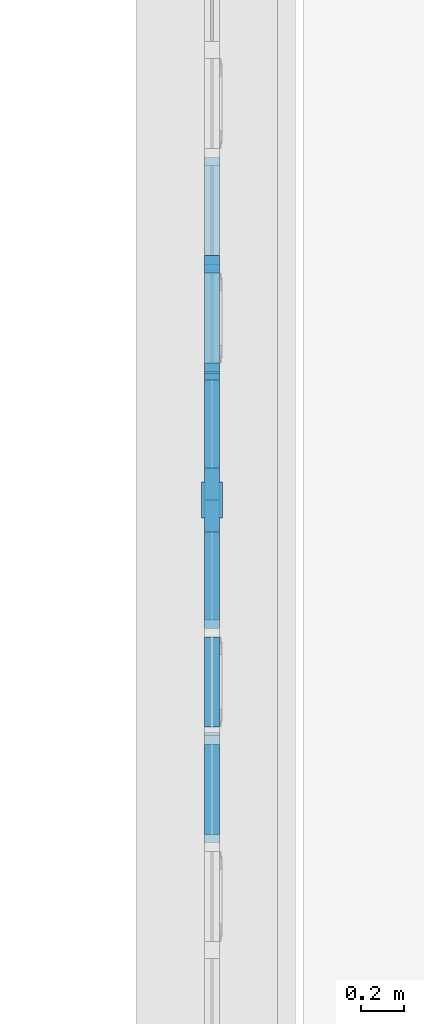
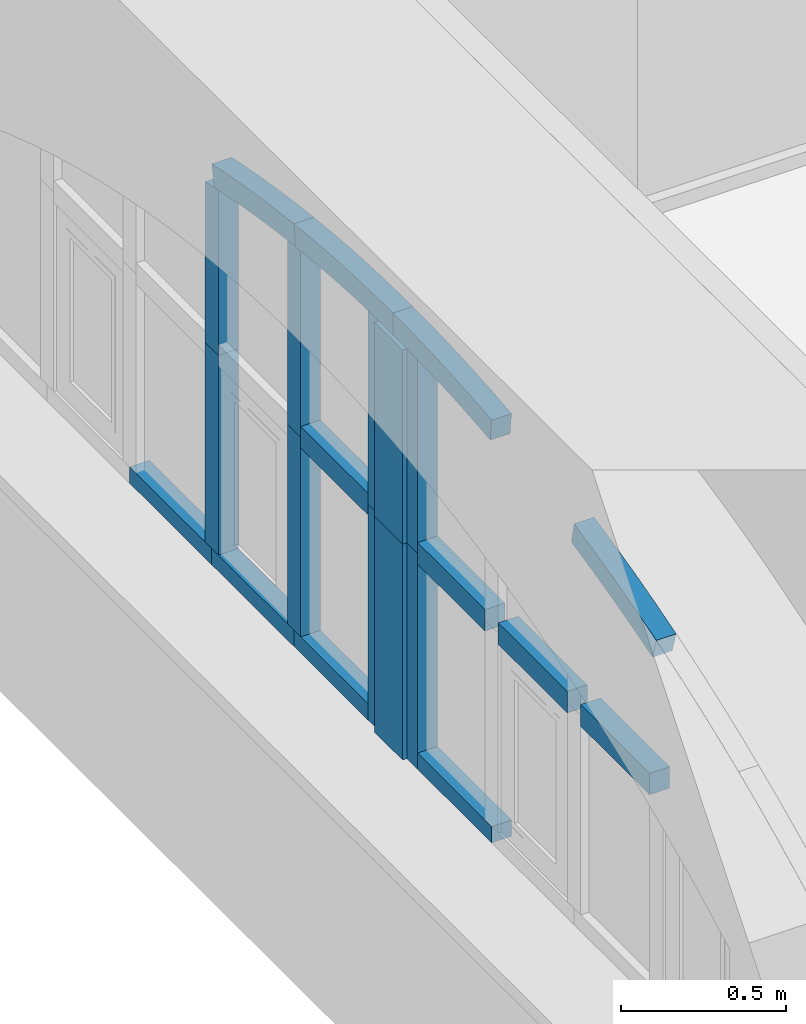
# One storey, part 13 of 32: 18 members, 1 element without a shape of its own.
"""IFC2X3 building model written with IfcOpenShell, lengths in millimetres."""

from ifc_helpers import new_model, entity, si_unit, converted_unit, derived_unit, direction, frame, frame_2d, origin, place, context, subcontext, project, spatial, polyline, circle_curve, parameter, trimmed, segment, composite_curve, rectangle, outline, extrude, faceted_brep, source, transform, mapped, material, type_object, type_shapes, element, aggregate, save


model = new_model("IFC2X3")

# Units and contexts
model_context = context("Model", 3, precision=0.01, world=origin(), true_north=direction((6.123031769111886e-17, 1.0)))
body_context = subcontext(model_context, "Body", "Model", "MODEL_VIEW")
ifc_project = project(units=[si_unit("LENGTHUNIT", "METRE", prefix="MILLI"), si_unit("AREAUNIT", "SQUARE_METRE"), si_unit("VOLUMEUNIT", "CUBIC_METRE"), converted_unit("PLANEANGLEUNIT", "DEGREE", entity("IfcPlaneAngleMeasure", 0.017453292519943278), si_unit("PLANEANGLEUNIT", "RADIAN"), dimensions=[0, 0, 0, 0, 0, 0, 0]), si_unit("MASSUNIT", "GRAM", prefix="KILO"), derived_unit("MASSDENSITYUNIT", [(si_unit("MASSUNIT", "GRAM", prefix="KILO"), 1), (si_unit("LENGTHUNIT", "METRE"), -3)]), derived_unit("IONCONCENTRATIONUNIT", [(si_unit("MASSUNIT", "GRAM", prefix="KILO"), 1), (si_unit("LENGTHUNIT", "METRE"), -3)]), derived_unit("MOMENTOFINERTIAUNIT", [(si_unit("LENGTHUNIT", "METRE"), 4)]), si_unit("TIMEUNIT", "SECOND"), si_unit("FREQUENCYUNIT", "HERTZ"), si_unit("THERMODYNAMICTEMPERATUREUNIT", "DEGREE_CELSIUS"), derived_unit("THERMALTRANSMITTANCEUNIT", [(si_unit("MASSUNIT", "GRAM", prefix="KILO"), 1), (si_unit("THERMODYNAMICTEMPERATUREUNIT", "KELVIN"), -1), (si_unit("TIMEUNIT", "SECOND"), -3)]), derived_unit("THERMALCONDUCTANCEUNIT", [(si_unit("MASSUNIT", "GRAM", prefix="KILO"), 1), (si_unit("THERMODYNAMICTEMPERATUREUNIT", "KELVIN"), -1), (si_unit("TIMEUNIT", "SECOND"), -3), (si_unit("LENGTHUNIT", "METRE"), 1)]), derived_unit("VOLUMETRICFLOWRATEUNIT", [(si_unit("LENGTHUNIT", "METRE", prefix="DECI"), 3), (si_unit("TIMEUNIT", "SECOND"), -1)]), derived_unit("MASSFLOWRATEUNIT", [(si_unit("MASSUNIT", "GRAM", prefix="KILO"), 1), (si_unit("TIMEUNIT", "SECOND"), -1)]), derived_unit("ROTATIONALFREQUENCYUNIT", [(si_unit("TIMEUNIT", "SECOND"), -1)]), si_unit("ELECTRICCURRENTUNIT", "AMPERE"), si_unit("ELECTRICVOLTAGEUNIT", "VOLT"), si_unit("POWERUNIT", "WATT"), si_unit("FORCEUNIT", "NEWTON", prefix="KILO"), si_unit("ILLUMINANCEUNIT", "LUX"), si_unit("LUMINOUSFLUXUNIT", "LUMEN"), si_unit("LUMINOUSINTENSITYUNIT", "CANDELA"), si_unit("ENERGYUNIT", "JOULE"), derived_unit("USERDEFINED", [(si_unit("MASSUNIT", "GRAM", prefix="KILO"), -1), (si_unit("LENGTHUNIT", "METRE"), -2), (si_unit("TIMEUNIT", "SECOND"), 3), (si_unit("LUMINOUSFLUXUNIT", "LUMEN"), 1)]), derived_unit("USERDEFINED", [(si_unit("MASSUNIT", "GRAM", prefix="KILO"), 1), (si_unit("TIMEUNIT", "SECOND"), -3), (si_unit("LENGTHUNIT", "METRE"), 3), (si_unit("ELECTRICCURRENTUNIT", "AMPERE"), -2)]), derived_unit("SOUNDPOWERUNIT", [(si_unit("MASSUNIT", "GRAM", prefix="KILO"), 1), (si_unit("TIMEUNIT", "SECOND"), -3), (si_unit("LENGTHUNIT", "METRE"), 2)]), derived_unit("SOUNDPRESSUREUNIT", [(si_unit("MASSUNIT", "GRAM", prefix="KILO"), 1), (si_unit("LENGTHUNIT", "METRE"), -1), (si_unit("TIMEUNIT", "SECOND"), -2)]), derived_unit("LINEARVELOCITYUNIT", [(si_unit("LENGTHUNIT", "METRE"), 1), (si_unit("TIMEUNIT", "SECOND"), -1)]), si_unit("PRESSUREUNIT", "PASCAL"), derived_unit("USERDEFINED", [(si_unit("MASSUNIT", "GRAM", prefix="KILO"), 1), (si_unit("LENGTHUNIT", "METRE"), -2), (si_unit("TIMEUNIT", "SECOND"), -2)]), derived_unit("LINEARFORCEUNIT", [(si_unit("MASSUNIT", "GRAM", prefix="KILO"), 1), (si_unit("TIMEUNIT", "SECOND"), -2)]), derived_unit("PLANARFORCEUNIT", [(si_unit("MASSUNIT", "GRAM", prefix="KILO"), 1), (si_unit("LENGTHUNIT", "METRE"), -1), (si_unit("TIMEUNIT", "SECOND"), -2)]), derived_unit("SPECIFICHEATCAPACITYUNIT", [(si_unit("THERMODYNAMICTEMPERATUREUNIT", "KELVIN"), -1), (si_unit("LENGTHUNIT", "METRE"), 2), (si_unit("TIMEUNIT", "SECOND"), -2)]), derived_unit("HEATFLUXDENSITYUNIT", [(si_unit("MASSUNIT", "GRAM", prefix="KILO"), 1), (si_unit("TIMEUNIT", "SECOND"), -3)]), derived_unit("HEATINGVALUEUNIT", [(si_unit("LENGTHUNIT", "METRE"), 2), (si_unit("TIMEUNIT", "SECOND"), -2)]), derived_unit("VAPORPERMEABILITYUNIT", [(si_unit("LENGTHUNIT", "METRE"), -1), (si_unit("TIMEUNIT", "SECOND"), 1)]), derived_unit("DYNAMICVISCOSITYUNIT", [(si_unit("MASSUNIT", "GRAM", prefix="KILO"), 1), (si_unit("TIMEUNIT", "SECOND"), -1), (si_unit("LENGTHUNIT", "METRE"), -1)]), derived_unit("THERMALEXPANSIONCOEFFICIENTUNIT", [(si_unit("THERMODYNAMICTEMPERATUREUNIT", "KELVIN"), -1)]), derived_unit("MODULUSOFELASTICITYUNIT", [(si_unit("MASSUNIT", "GRAM", prefix="KILO"), 1), (si_unit("LENGTHUNIT", "METRE"), -1), (si_unit("TIMEUNIT", "SECOND"), -2)]), derived_unit("ISOTHERMALMOISTURECAPACITYUNIT", [(si_unit("MASSUNIT", "GRAM", prefix="KILO"), -1), (si_unit("LENGTHUNIT", "METRE"), 3)]), derived_unit("MOISTUREDIFFUSIVITYUNIT", [(si_unit("TIMEUNIT", "SECOND"), -1), (si_unit("LENGTHUNIT", "METRE"), 2)]), derived_unit("MASSPERLENGTHUNIT", [(si_unit("MASSUNIT", "GRAM", prefix="KILO"), 1), (si_unit("LENGTHUNIT", "METRE"), -1)]), derived_unit("THERMALRESISTANCEUNIT", [(si_unit("MASSUNIT", "GRAM", prefix="KILO"), -1), (si_unit("TIMEUNIT", "SECOND"), 3), (si_unit("THERMODYNAMICTEMPERATUREUNIT", "KELVIN"), 1)]), derived_unit("ACCELERATIONUNIT", [(si_unit("LENGTHUNIT", "METRE"), 1), (si_unit("TIMEUNIT", "SECOND"), -2)]), derived_unit("ANGULARVELOCITYUNIT", [(si_unit("TIMEUNIT", "SECOND"), -1), (si_unit("PLANEANGLEUNIT", "RADIAN"), 1)]), derived_unit("LINEARSTIFFNESSUNIT", [(si_unit("MASSUNIT", "GRAM", prefix="KILO"), 1), (si_unit("TIMEUNIT", "SECOND"), -2)]), derived_unit("WARPINGCONSTANTUNIT", [(si_unit("LENGTHUNIT", "METRE"), 6)]), derived_unit("LINEARMOMENTUNIT", [(si_unit("MASSUNIT", "GRAM", prefix="KILO"), 1), (si_unit("LENGTHUNIT", "METRE"), 1), (si_unit("TIMEUNIT", "SECOND"), -2)]), derived_unit("TORQUEUNIT", [(si_unit("MASSUNIT", "GRAM", prefix="KILO"), 1), (si_unit("LENGTHUNIT", "METRE"), 2), (si_unit("TIMEUNIT", "SECOND"), -2)])], contexts=[model_context])

# Site, building, storey
site_placement = place(None, origin())
site = spatial("IfcSite", under=ifc_project, at=site_placement, Name="Default", CompositionType="ELEMENT")
building_placement = place(site_placement, origin())
building = spatial("IfcBuilding", under=site, at=building_placement, Name="Eesti Rahvusraamatukogu hoone renoveerimise projekteerimistööd", CompositionType="ELEMENT")
storey_placement = place(building_placement, frame((0.0, 0.0, 4950.000000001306)))
storey = spatial("IfcBuildingStorey", under=building, at=storey_placement, Name="2. korrus", CompositionType="ELEMENT", Elevation=4950.000000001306)

# Curtain wall, members
curtain_wall_type = type_object("IfcCurtainWallType", Name="Curtain Wall:Ak-04", PredefinedType="NOTDEFINED")
curtain_wall_placement = place(storey_placement, frame((0.0, 0.0, -4950.000000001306)))
curtain_wall = element("IfcCurtainWall", 1, at=curtain_wall_placement, inside=storey, type_object=curtain_wall_type, Name="Curtain Wall:Ak-04", ObjectType="Curtain Wall:Ak-04")
ifc_material = material(Name="LUMION_dark steel window frames")
member_type_1 = type_object("IfcMemberType", Name="Rectangular Mullion:NEW 80x70mm", PredefinedType="MULLION", material=ifc_material)
shared_shape_1 = source(origin(), body_context, "Body", "SweptSolid", [
    extrude(rectangle(XDim=80.0, YDim=70.0, at=frame_2d((0.0, -3.552713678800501e-15), x_axis=(1.0, 0.0))), frame((0.0, 0.0, -420.0), z_axis=(0.0, 0.0, 1.0), x_axis=(-1.0, 0.0, 0.0)), (0.0, 0.0, 1.0), 419.999999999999),
])
type_shapes(member_type_1, [shared_shape_1])
member_1_placement = place(curtain_wall_placement, frame((-36425.0, 32295.44029191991, 6550.000000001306), z_axis=(0.0, -1.0, 0.0), x_axis=(0.0, 0.0, 1.0)))
member_1 = element("IfcMember", 2, at=member_1_placement, type_object=member_type_1, material=ifc_material, Name="Rectangular Mullion:NEW 80x70mm", ObjectType="Rectangular Mullion:NEW 80x70mm", context=body_context, shape_type="MappedRepresentation", body=[
    mapped(shared_shape_1, transform((0.0, 0.0, 0.0), scale=1.0)),
])
member_2_placement = place(curtain_wall_placement, frame((-36425.0, 31795.44029191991, 6550.000000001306), z_axis=(0.0, -1.0, 0.0), x_axis=(0.0, 0.0, 1.0)))
member_2 = element("IfcMember", 3, at=member_2_placement, type_object=member_type_1, material=ifc_material, Name="Rectangular Mullion:NEW 80x70mm", ObjectType="Rectangular Mullion:NEW 80x70mm", context=body_context, shape_type="MappedRepresentation", body=[
    mapped(shared_shape_1, transform((0.0, 0.0, 0.0), scale=1.0)),
])
member_type_2 = type_object("IfcMemberType", Name="Rectangular Mullion:NEW 80x70mm", PredefinedType="MULLION", material=ifc_material)
shared_shape_2 = source(origin(), body_context, "Body", "SweptSolid", [
    extrude(rectangle(XDim=80.0, YDim=70.0, at=frame_2d((0.0, -3.552713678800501e-15), x_axis=(1.0, 0.0))), frame((0.0, 0.0, -410.0), z_axis=(0.0, 0.0, 1.0), x_axis=(-1.0, 0.0, 0.0)), (0.0, 0.0, 1.0), 409.9999999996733),
])
type_shapes(member_type_2, [shared_shape_2])
member_3_placement = place(curtain_wall_placement, frame((-36425.0, 33505.44029191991, 6550.000000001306), z_axis=(0.0, -1.0, 0.0), x_axis=(0.0, 0.0, 1.0)))
member_3 = element("IfcMember", 4, at=member_3_placement, type_object=member_type_2, material=ifc_material, Name="Rectangular Mullion:NEW 80x70mm", ObjectType="Rectangular Mullion:NEW 80x70mm", context=body_context, shape_type="MappedRepresentation", body=[
    mapped(shared_shape_2, transform((0.0, 0.0, 0.0), scale=1.0)),
])
member_4_placement = place(curtain_wall_placement, frame((-36425.0, 32795.440291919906, 6550.000000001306), z_axis=(0.0, -1.0, 0.0), x_axis=(0.0, 0.0, 1.0)))
member_4 = element("IfcMember", 5, at=member_4_placement, type_object=member_type_2, material=ifc_material, Name="Rectangular Mullion:NEW 80x70mm", ObjectType="Rectangular Mullion:NEW 80x70mm", context=body_context, shape_type="MappedRepresentation", body=[
    mapped(shared_shape_2, transform((0.0, 0.0, 0.0), scale=1.0)),
])
member_type_3 = type_object("IfcMemberType", Name="Rectangular Mullion:NEW 60x70mm", PredefinedType="MULLION", material=ifc_material)
shared_shape_3 = source(origin(), body_context, "Body", "SweptSolid", [
    extrude(rectangle(XDim=60.0, YDim=70.0, at=frame_2d((0.0, 3.552713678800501e-15), x_axis=(1.0, 0.0))), frame((-30.0, 0.0, -500.0), z_axis=(0.0, 0.0, 1.0), x_axis=(-1.0, 0.0, 0.0)), (0.0, 0.0, 1.0), 499.999999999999),
])
type_shapes(member_type_3, [shared_shape_3])
member_5_placement = place(curtain_wall_placement, frame((-36425.0, 34455.44029191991, 5750.000000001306), z_axis=(0.0, 1.0, 0.0), x_axis=(0.0, 0.0, -1.0)))
member_5 = element("IfcMember", 6, at=member_5_placement, type_object=member_type_3, material=ifc_material, Name="Rectangular Mullion:NEW 60x70mm", ObjectType="Rectangular Mullion:NEW 60x70mm", context=body_context, shape_type="MappedRepresentation", body=[
    mapped(shared_shape_3, transform((0.0, 0.0, 0.0), scale=1.0)),
])
member_6_placement = place(curtain_wall_placement, frame((-36425.0, 34955.44029191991, 5750.000000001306), z_axis=(0.0, 1.0, 0.0), x_axis=(0.0, 0.0, -1.0)))
member_6 = element("IfcMember", 7, at=member_6_placement, type_object=member_type_3, material=ifc_material, Name="Rectangular Mullion:NEW 60x70mm", ObjectType="Rectangular Mullion:NEW 60x70mm", context=body_context, shape_type="MappedRepresentation", body=[
    mapped(shared_shape_3, transform((0.0, 0.0, 0.0), scale=1.0)),
])
member_type_4 = type_object("IfcMemberType", Name="Rectangular Mullion:NEW 60x70mm", PredefinedType="MULLION", material=ifc_material)
shared_shape_4 = source(origin(), body_context, "Body", "SweptSolid", [
    extrude(rectangle(XDim=60.0, YDim=70.0, at=frame_2d((0.0, 3.552713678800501e-15), x_axis=(1.0, 0.0))), frame((-30.0, 0.0, -450.0), z_axis=(0.0, 0.0, 1.0), x_axis=(-1.0, 0.0, 0.0)), (0.0, 0.0, 1.0), 449.99999999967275),
])
type_shapes(member_type_4, [shared_shape_4])
member_7_placement = place(curtain_wall_placement, frame((-36425.0, 33955.44029191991, 5750.000000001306), z_axis=(0.0, 1.0, 0.0), x_axis=(0.0, 0.0, -1.0)))
member_7 = element("IfcMember", 8, at=member_7_placement, type_object=member_type_4, material=ifc_material, Name="Rectangular Mullion:NEW 60x70mm", ObjectType="Rectangular Mullion:NEW 60x70mm", context=body_context, shape_type="MappedRepresentation", body=[
    mapped(shared_shape_4, transform((0.0, 0.0, 0.0), scale=1.0)),
])
member_type_5 = type_object("IfcMemberType", Name="Rectangular Mullion:NEW 60x70mm", PredefinedType="MULLION", material=ifc_material)
shared_shape_5 = source(origin(), body_context, "Body", "SweptSolid", [
    extrude(rectangle(XDim=60.0, YDim=70.0, at=frame_2d((0.0, 3.552713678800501e-15), x_axis=(1.0, 0.0))), frame((-30.0, 0.0, -450.0), z_axis=(0.0, 0.0, 1.0), x_axis=(-1.0, 0.0, 0.0)), (0.0, 0.0, 1.0), 449.9999999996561),
])
type_shapes(member_type_5, [shared_shape_5])
member_8_placement = place(curtain_wall_placement, frame((-36425.0, 33205.440291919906, 5750.000000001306), z_axis=(0.0, 1.0, 0.0), x_axis=(0.0, 0.0, -1.0)))
member_8 = element("IfcMember", 9, at=member_8_placement, type_object=member_type_5, material=ifc_material, Name="Rectangular Mullion:NEW 60x70mm", ObjectType="Rectangular Mullion:NEW 60x70mm", context=body_context, shape_type="MappedRepresentation", body=[
    mapped(shared_shape_5, transform((0.0, 0.0, 0.0), scale=1.0)),
])
member_type_6 = type_object("IfcMemberType", Name="Rectangular Mullion:NEW 80x70mm", PredefinedType="MULLION", material=ifc_material)
shared_shape_6 = source(origin(), body_context, "Body", "SweptSolid", [
    extrude(rectangle(XDim=80.0, YDim=70.0, at=frame_2d((0.0, -3.552713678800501e-15), x_axis=(1.0, 0.0))), frame((0.0, 0.0, -740.0), z_axis=(0.0, 0.0, 1.0), x_axis=(-1.0, 0.0, 0.0)), (0.0, 0.0, 1.0), 740.0),
])
type_shapes(member_type_6, [shared_shape_6])
member_9_placement = place(curtain_wall_placement, frame((-36425.0, 33955.44029191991, 5810.000000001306), z_axis=(0.0, 0.0, -1.0), x_axis=(0.0, -1.0, 0.0)))
member_9 = element("IfcMember", 10, at=member_9_placement, type_object=member_type_6, material=ifc_material, Name="Rectangular Mullion:NEW 80x70mm", ObjectType="Rectangular Mullion:NEW 80x70mm", context=body_context, shape_type="MappedRepresentation", body=[
    mapped(shared_shape_6, transform((0.0, 0.0, 0.0), scale=1.0)),
])
member_10_placement = place(curtain_wall_placement, frame((-36425.0, 34455.44029191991, 5810.000000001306), z_axis=(0.0, 0.0, -1.0), x_axis=(0.0, -1.0, 0.0)))
member_10 = element("IfcMember", 11, at=member_10_placement, type_object=member_type_6, material=ifc_material, Name="Rectangular Mullion:NEW 80x70mm", ObjectType="Rectangular Mullion:NEW 80x70mm", context=body_context, shape_type="MappedRepresentation", body=[
    mapped(shared_shape_6, transform((0.0, 0.0, 0.0), scale=1.0)),
])
member_type_7 = type_object("IfcMemberType", Name="Rectangular Mullion:NEW 80x70mm", PredefinedType="MULLION", material=ifc_material)
shared_shape_7 = source(origin(), body_context, "Body", "SweptSolid", [
    extrude(outline(composite_curve([segment(polyline([(-411.6963002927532, -38.21553912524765), (278.6344972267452, -38.21553912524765)]), True, "CONTINUOUS"), segment(trimmed(circle_curve(frame_2d((-4991.472419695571, -598.2155391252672), x_axis=(1.0, 0.0)), 5299.776119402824), [parameter(6.065472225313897)], [parameter(6.403451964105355)], True, "PARAMETER"), True, "CONTINUOUS"), segment(trimmed(circle_curve(frame_2d((-4991.472419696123, -598.2155391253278), x_axis=(0.9937612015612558, 0.11152880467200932)), 5299.776119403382), [parameter(0.0)], [parameter(0.532503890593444)], True, "PARAMETER"), True, "CONTINUOUS"), segment(polyline([(269.51863863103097, 41.78446087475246), (-411.6963002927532, 41.78446087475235)]), True, "CONTINUOUS"), segment(polyline([(-411.6963002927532, 41.78446087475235), (-411.6963002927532, -38.21553912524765)]), True, "CONTINUOUS")], self_intersect=False)), frame((1.7844608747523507, -35.0, -411.6963002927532), z_axis=(0.0, 1.0, 0.0), x_axis=(0.0, 0.0, -1.0)), (0.0, 0.0, 1.0), 69.99999999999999),
])
type_shapes(member_type_7, [shared_shape_7])
member_11_placement = place(curtain_wall_placement, frame((-36425.0, 33955.44029191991, 6550.000000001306), z_axis=(0.0, 0.0, -1.0), x_axis=(0.0, -1.0, 0.0)))
member_11 = element("IfcMember", 12, at=member_11_placement, type_object=member_type_7, material=ifc_material, Name="Rectangular Mullion:NEW 80x70mm", ObjectType="Rectangular Mullion:NEW 80x70mm", context=body_context, shape_type="MappedRepresentation", body=[
    mapped(shared_shape_7, transform((0.0, 0.0, 0.0), scale=1.0)),
])
member_type_8 = type_object("IfcMemberType", Name="Rectangular Mullion:NEW 80x70mm", PredefinedType="MULLION", material=ifc_material)
shared_shape_8 = source(origin(), body_context, "Body", "SweptSolid", [
    extrude(outline(composite_curve([segment(polyline([(-363.376788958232, -36.72848839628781), (249.53684896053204, -36.72848839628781)]), True, "CONTINUOUS"), segment(trimmed(circle_curve(frame_2d((-4943.152908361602, -1096.7284883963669), x_axis=(0.9937612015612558, 0.11152880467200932)), 5299.776119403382), [parameter(5.134001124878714)], [parameter(5.394992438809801)], True, "PARAMETER"), True, "CONTINUOUS"), segment(trimmed(circle_curve(frame_2d((-4943.152908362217, -1096.7284883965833), x_axis=(0.9788729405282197, 0.20446947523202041)), 5299.776119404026), [parameter(0.0)], [parameter(0.6231507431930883)], True, "PARAMETER"), True, "CONTINUOUS"), segment(polyline([(232.5622031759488, 43.27151160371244), (-363.376788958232, 43.27151160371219)]), True, "CONTINUOUS"), segment(polyline([(-363.376788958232, 43.27151160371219), (-363.376788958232, -36.72848839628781)]), True, "CONTINUOUS")], self_intersect=False)), frame((3.2715116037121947, -35.0, -363.376788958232), z_axis=(0.0, 1.0, 0.0), x_axis=(0.0, 0.0, -1.0)), (0.0, 0.0, 1.0), 69.99999999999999),
])
type_shapes(member_type_8, [shared_shape_8])
member_12_placement = place(curtain_wall_placement, frame((-36425.0, 34455.440291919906, 6550.000000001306), z_axis=(0.0, 0.0, -1.0), x_axis=(0.0, -1.0, 0.0)))
member_12 = element("IfcMember", 13, at=member_12_placement, type_object=member_type_8, material=ifc_material, Name="Rectangular Mullion:NEW 80x70mm", ObjectType="Rectangular Mullion:NEW 80x70mm", context=body_context, shape_type="MappedRepresentation", body=[
    mapped(shared_shape_8, transform((0.0, 0.0, 0.0), scale=1.0)),
])
member_type_9 = type_object("IfcMemberType", Name="Rectangular Mullion:NEW 80x70mm", PredefinedType="MULLION", material=ifc_material)
shared_shape_9 = source(origin(), body_context, "Body", "SweptSolid", [
    extrude(outline(composite_curve([segment(polyline([(-51.82710825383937, -251.02635265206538), (28.172891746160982, -251.0263526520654)]), True, "CONTINUOUS"), segment(trimmed(circle_curve(frame_2d((5327.949011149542, -251.0263526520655), x_axis=(-0.995570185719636, 0.09402130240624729)), 5299.776119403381), [parameter(3.5622212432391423e-13)], [parameter(5.394992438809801)], True, "PARAMETER"), False, "CONTINUOUS"), segment(polyline([(51.649915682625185, 247.26550055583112), (-27.99569917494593, 254.78720474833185)]), True, "CONTINUOUS"), segment(trimmed(circle_curve(frame_2d((5327.949011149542, -251.0263526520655), x_axis=(-0.995570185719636, 0.09402130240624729)), 5379.776119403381), [parameter(3.5622212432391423e-13)], [parameter(5.394992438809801)], True, "PARAMETER"), True, "CONTINUOUS")], self_intersect=False)), frame((-51.827108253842, -35.0, -251.0263526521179), z_axis=(0.0, 1.0, 0.0), x_axis=(-0.9955701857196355, 0.0, 0.09402130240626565)), (0.0, 0.0, 1.0), 69.99999999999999),
])
type_shapes(member_type_9, [shared_shape_9])
member_13_placement = place(curtain_wall_placement, frame((-36425.0, 33955.440291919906, 7316.436661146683), z_axis=(0.0, -0.9937612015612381, 0.11152880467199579), x_axis=(0.0, 0.11152880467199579, 0.9937612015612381)))
member_13 = element("IfcMember", 14, at=member_13_placement, type_object=member_type_9, material=ifc_material, Name="Rectangular Mullion:NEW 80x70mm", ObjectType="Rectangular Mullion:NEW 80x70mm", context=body_context, shape_type="MappedRepresentation", body=[
    mapped(shared_shape_9, transform((0.0, 0.0, 0.0), scale=1.0)),
])
member_type_10 = type_object("IfcMemberType", Name="Rectangular Mullion:NEW 80x70mm", PredefinedType="MULLION", material=ifc_material)
shared_shape_10 = source(origin(), body_context, "Body", "SweptSolid", [
    extrude(outline(composite_curve([segment(polyline([(-52.30804182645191, -256.0677643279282), (27.691958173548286, -256.0677643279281)]), True, "CONTINUOUS"), segment(trimmed(circle_curve(frame_2d((5327.46807757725, -256.0677643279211), x_axis=(-0.9953900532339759, 0.09590955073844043)), 5299.776119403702), [parameter(3.5622212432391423e-13)], [parameter(5.5036722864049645)], True, "PARAMETER"), False, "CONTINUOUS"), segment(polyline([(52.12364395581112, 252.2313822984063), (-27.507560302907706, 259.9041463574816)]), True, "CONTINUOUS"), segment(trimmed(circle_curve(frame_2d((5327.46807757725, -256.0677643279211), x_axis=(-0.9953900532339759, 0.09590955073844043)), 5379.776119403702), [parameter(3.5622212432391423e-13)], [parameter(5.5036722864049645)], True, "PARAMETER"), True, "CONTINUOUS")], self_intersect=False)), frame((-52.30804182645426, -35.0, -256.06776432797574), z_axis=(0.0, 1.0, 0.0), x_axis=(-0.9953900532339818, 0.0, 0.09590955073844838)), (0.0, 0.0, 1.0), 69.99999999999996),
])
type_shapes(member_type_10, [shared_shape_10])
member_14_placement = place(curtain_wall_placement, frame((-36425.0, 31755.440291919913, 7106.564123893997), z_axis=(0.0, -0.9547498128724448, -0.2974101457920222), x_axis=(0.0, -0.2974101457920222, 0.9547498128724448)))
member_14 = element("IfcMember", 15, at=member_14_placement, type_object=member_type_10, material=ifc_material, Name="Rectangular Mullion:NEW 80x70mm", ObjectType="Rectangular Mullion:NEW 80x70mm", context=body_context, shape_type="MappedRepresentation", body=[
    mapped(shared_shape_10, transform((0.0, 0.0, 0.0), scale=1.0)),
])
member_type_11 = type_object("IfcMemberType", Name="Rectangular Mullion:NEW 300x100mm", PredefinedType="MULLION", material=ifc_material)
shared_shape_11 = source(origin(), body_context, "Body", "Brep", [
    faceted_brep([(-85.0, -50.0, 0.0), (85.0, -50.0, 0.0), (85.0, -35.0, 0.0), (150.0, -35.0, 0.0), (150.0, 35.0, 0.0), (85.0, 35.0, 0.0), (85.0, 50.0, 0.0), (-85.0, 50.0, 0.0), (-85.0, 35.0, 0.0), (-150.0, 35.0, 0.0), (-150.0, -35.0, 0.0), (-85.0, -35.0, 0.0), (-85.0, 35.0, -719.3183235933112), (-117.50221047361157, 35.0, -718.6972594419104), (-150.0, 35.0, -717.8768435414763), (150.0, 35.0, -717.8768435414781), (117.50221047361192, 35.0, -718.6972594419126), (85.0, 35.0, -719.3183235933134), (-150.0, -35.0, -717.8768435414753), (-117.50221047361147, -35.0, -718.6972594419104), (-85.0, -35.0, -719.3183235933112), (85.0, -35.0, -719.3183235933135), (117.50221047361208, -35.0, -718.6972594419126), (150.0, -35.0, -717.8768435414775), (-85.0, -50.0, -719.3183235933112), (-85.0, 50.0, -719.3183235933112), (-42.50068337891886, -50.0, -719.8295836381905), (0.0, -50.0, -720.0), (42.500683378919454, -50.0, -719.8295836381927), (85.0, -50.0, -719.3183235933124), (85.0, 50.0, -719.3183235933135), (42.500683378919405, 50.0, -719.8295836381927), (0.0, 50.0, -720.0), (-42.500683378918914, 50.0, -719.8295836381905)], [[[0, 1, 2, 3, 4, 5, 6, 7, 8, 9, 10, 11]], [[9, 8, 12, 13, 14]], [[5, 4, 15, 16, 17]], [[10, 9, 14, 18]], [[11, 10, 18, 19, 20]], [[3, 2, 21, 22, 23]], [[0, 11, 20, 24]], [[8, 7, 25, 12]], [[1, 0, 24, 26, 27, 28, 29]], [[2, 1, 29, 21]], [[6, 5, 17, 30]], [[4, 3, 23, 15]], [[7, 6, 30, 31, 32, 33, 25]], [[33, 32, 27, 26]], [[20, 12, 25, 33, 26, 24]], [[20, 19, 13, 12]], [[19, 18, 14, 13]], [[15, 23, 22, 16]], [[16, 22, 21, 17]], [[21, 29, 28, 31, 30, 17]], [[31, 28, 27, 32]]]),
])
type_shapes(member_type_11, [shared_shape_11])
member_15_placement = place(curtain_wall_placement, frame((-36425.0, 33355.44029191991, 6550.000000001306), z_axis=(0.0, 0.0, -1.0), x_axis=(0.0, -1.0, 0.0)))
member_15 = element("IfcMember", 16, at=member_15_placement, type_object=member_type_11, material=ifc_material, Name="Rectangular Mullion:NEW 300x100mm", ObjectType="Rectangular Mullion:NEW 300x100mm", context=body_context, shape_type="MappedRepresentation", body=[
    mapped(shared_shape_11, transform((0.0, 0.0, 0.0), scale=1.0)),
])
member_type_12 = type_object("IfcMemberType", Name="Rectangular Mullion:NEW 300x100mm", PredefinedType="MULLION", material=ifc_material)
shared_shape_12 = source(origin(), body_context, "Body", "SweptSolid", [
    extrude(outline(polyline([(85.0, -35.0), (150.0, -35.0), (150.0, 35.0), (85.0, 35.0), (85.0, 50.0), (-85.0, 50.0), (-85.0, 35.0), (-150.0, 35.0), (-150.0, -35.0), (-85.0, -35.0), (-85.0, -50.0), (85.0, -50.0), (85.0, -35.0)])), frame((0.0, 0.0, -800.0), z_axis=(0.0, 0.0, 1.0), x_axis=(-1.0, 0.0, 0.0)), (0.0, 0.0, 1.0), 800.0),
])
type_shapes(member_type_12, [shared_shape_12])
member_16_placement = place(curtain_wall_placement, frame((-36425.0, 33355.44029191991, 5750.000000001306), z_axis=(0.0, 0.0, -1.0), x_axis=(0.0, -1.0, 0.0)))
member_16 = element("IfcMember", 17, at=member_16_placement, type_object=member_type_12, material=ifc_material, Name="Rectangular Mullion:NEW 300x100mm", ObjectType="Rectangular Mullion:NEW 300x100mm", context=body_context, shape_type="MappedRepresentation", body=[
    mapped(shared_shape_12, transform((0.0, 0.0, 0.0), scale=1.0)),
])
member_type_13 = type_object("IfcMemberType", Name="Rectangular Mullion:NEW 80x70mm", PredefinedType="MULLION", material=ifc_material)
shared_shape_13 = source(origin(), body_context, "Body", "SweptSolid", [
    extrude(outline(composite_curve([segment(polyline([(-56.65689345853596, -297.7694239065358), (23.343106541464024, -297.7694239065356)]), True, "CONTINUOUS"), segment(trimmed(circle_curve(frame_2d((5323.119225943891, -297.7694239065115), x_axis=(-0.9937612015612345, 0.11152880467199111)), 5299.776119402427), [parameter(3.5622212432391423e-13)], [parameter(6.4034519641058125)], True, "PARAMETER"), False, "CONTINUOUS"), segment(polyline([(56.40734152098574, 293.3082717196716), (-23.093554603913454, 302.230576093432)]), True, "CONTINUOUS"), segment(trimmed(circle_curve(frame_2d((5323.119225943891, -297.7694239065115), x_axis=(-0.9937612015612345, 0.11152880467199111)), 5379.776119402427), [parameter(3.5622212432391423e-13)], [parameter(6.4034519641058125)], True, "PARAMETER"), True, "CONTINUOUS")], self_intersect=False)), frame((-56.6568934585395, -35.0, -297.7694239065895), z_axis=(0.0, 1.0, 0.0), x_axis=(-0.9937612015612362, 0.0, 0.11152880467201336)), (0.0, 0.0, 1.0), 70.00000000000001),
])
type_shapes(member_type_13, [shared_shape_13])
member_17_placement = place(curtain_wall_placement, frame((-36425.0, 32755.440291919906, 7316.436661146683), z_axis=(0.0, -0.993761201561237, -0.11152880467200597), x_axis=(0.0, -0.11152880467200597, 0.993761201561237)))
member_17 = element("IfcMember", 18, at=member_17_placement, type_object=member_type_13, material=ifc_material, Name="Rectangular Mullion:NEW 80x70mm", ObjectType="Rectangular Mullion:NEW 80x70mm", context=body_context, shape_type="MappedRepresentation", body=[
    mapped(shared_shape_13, transform((0.0, 0.0, 0.0), scale=1.0)),
])
member_type_14 = type_object("IfcMemberType", Name="Rectangular Mullion:NEW 80x70mm", PredefinedType="MULLION", material=ifc_material)
shared_shape_14 = source(origin(), body_context, "Body", "SweptSolid", [
    extrude(outline(composite_curve([segment(polyline([(-56.65689345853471, -297.7694239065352), (23.343106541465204, -297.7694239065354)]), True, "CONTINUOUS"), segment(trimmed(circle_curve(frame_2d((5323.11922594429, -297.7694239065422), x_axis=(-0.9937612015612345, 0.11152880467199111)), 5299.776119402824), [parameter(3.5622212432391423e-13)], [parameter(6.403451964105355)], True, "PARAMETER"), False, "CONTINUOUS"), segment(polyline([(56.40734152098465, 293.3082717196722), (-23.093554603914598, 302.2305760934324)]), True, "CONTINUOUS"), segment(trimmed(circle_curve(frame_2d((5323.11922594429, -297.7694239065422), x_axis=(-0.9937612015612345, 0.11152880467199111)), 5379.776119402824), [parameter(3.5622212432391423e-13)], [parameter(6.403451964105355)], True, "PARAMETER"), True, "CONTINUOUS")], self_intersect=False)), frame((-56.65689345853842, -35.0, -297.7694239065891), z_axis=(0.0, 1.0, 0.0), x_axis=(-0.993761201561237, 0.0, 0.11152880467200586)), (0.0, 0.0, 1.0), 70.0),
])
type_shapes(member_type_14, [shared_shape_14])
member_18_placement = place(curtain_wall_placement, frame((-36425.0, 33355.44029191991, 7350.000000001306), z_axis=(0.0, -1.0, 0.0), x_axis=(0.0, 0.0, 1.0)))
member_18 = element("IfcMember", 19, at=member_18_placement, type_object=member_type_14, material=ifc_material, Name="Rectangular Mullion:NEW 80x70mm", ObjectType="Rectangular Mullion:NEW 80x70mm", context=body_context, shape_type="MappedRepresentation", body=[
    mapped(shared_shape_14, transform((0.0, 0.0, 0.0), scale=1.0)),
])
aggregate(curtain_wall, [member_11, member_9, member_12, member_10, member_7, member_5, member_6, member_8, member_13, member_14, member_3, member_1, member_2, member_4, member_15, member_16, member_17, member_18])

save(model, "model.ifc")
